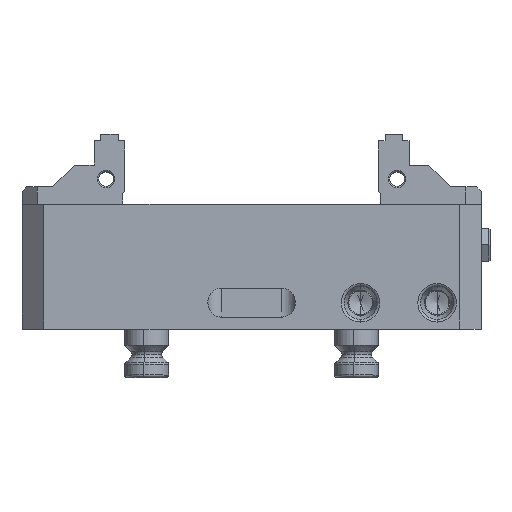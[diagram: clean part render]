
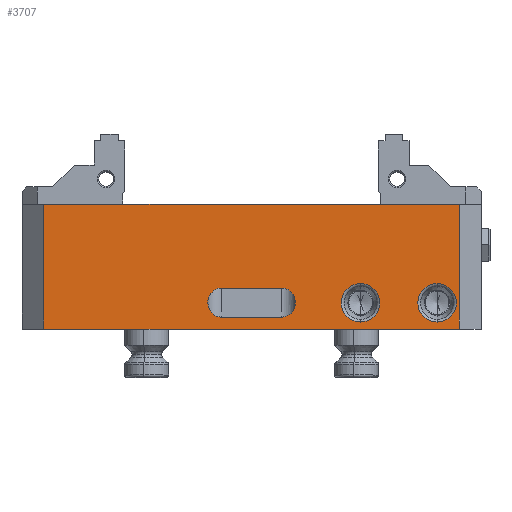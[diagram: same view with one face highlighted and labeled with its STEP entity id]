
A CAD part, top view. The second image highlights one B-rep face of the part: STEP entity #3707.
In plain terms, the highlighted planar face has unit normal (0, 0, 1).
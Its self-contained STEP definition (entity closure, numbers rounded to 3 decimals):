
#15 = CIRCLE ( 'NONE', #7527, 8.805 ) ;
#126 = CARTESIAN_POINT ( 'NONE',  ( 105., 57., 62.5 ) ) ;
#195 = CARTESIAN_POINT ( 'NONE',  ( -13.75, 18.743, 62.5 ) ) ;
#222 = CARTESIAN_POINT ( 'NONE',  ( -26.25, 18.743, 62.5 ) ) ;
#296 = CARTESIAN_POINT ( 'NONE',  ( 105., 0., 62.5 ) ) ;
#380 = CARTESIAN_POINT ( 'NONE',  ( 84.8, 3.195, 62.5 ) ) ;
#487 = EDGE_LOOP ( 'NONE', ( #16011, #5038 ) ) ;
#680 = CARTESIAN_POINT ( 'NONE',  ( 20., 5.441, 62.5 ) ) ;
#954 = EDGE_LOOP ( 'NONE', ( #12599, #6173 ) ) ;
#1278 = EDGE_CURVE ( 'NONE', #11208, #1601, #12634, .T. ) ;
#1333 = ORIENTED_EDGE ( 'NONE', *, *, #6800, .T. ) ;
#1601 = VERTEX_POINT ( 'NONE', #15127 ) ;
#1604 = EDGE_CURVE ( 'NONE', #11815, #7485, #13589, .T. ) ;
#1830 =( BOUNDED_CURVE ( )  B_SPLINE_CURVE ( 3, ( #16059, #222, #11531, #14658 ),
 .UNSPECIFIED., .F., .F. ) 
 B_SPLINE_CURVE_WITH_KNOTS ( ( 4, 4 ),
 ( 3.142, 6.283 ),
 .UNSPECIFIED. ) 
 CURVE ( )  GEOMETRIC_REPRESENTATION_ITEM ( )  RATIONAL_B_SPLINE_CURVE ( ( 1., 0.333, 0.333, 1. ) ) 
 REPRESENTATION_ITEM ( '' )  );
#1899 = AXIS2_PLACEMENT_3D ( 'NONE', #11730, #5552, #11838 ) ;
#1955 = CARTESIAN_POINT ( 'NONE',  ( 84.8, 20.805, 62.5 ) ) ;
#2441 = ORIENTED_EDGE ( 'NONE', *, *, #6796, .F. ) ;
#2546 = LINE ( 'NONE', #680, #13835 ) ;
#2685 = AXIS2_PLACEMENT_3D ( 'NONE', #13885, #5211, #10138 ) ;
#2746 = FACE_BOUND ( 'NONE', #7744, .T. ) ;
#3029 = CARTESIAN_POINT ( 'NONE',  ( 49.8, 12., 62.5 ) ) ;
#3326 = DIRECTION ( 'NONE',  ( 1., 0., 0. ) ) ;
#3337 = DIRECTION ( 'NONE',  ( 1., 0., 0. ) ) ;
#3707 = ADVANCED_FACE ( 'NONE', ( #6666, #5935, #13855, #2746 ), #4541, .F. ) ;
#3807 = DIRECTION ( 'NONE',  ( 0., -1., 0. ) ) ;
#3831 = CARTESIAN_POINT ( 'NONE',  ( 13.75, 5.441, 62.5 ) ) ;
#4223 = ORIENTED_EDGE ( 'NONE', *, *, #11243, .T. ) ;
#4282 = EDGE_CURVE ( 'NONE', #10891, #6450, #12842, .T. ) ;
#4324 = DIRECTION ( 'NONE',  ( 1., 0., 0. ) ) ;
#4526 = ORIENTED_EDGE ( 'NONE', *, *, #1604, .T. ) ;
#4541 = PLANE ( 'NONE',  #11038 ) ;
#4680 = VECTOR ( 'NONE', #3807, 1000. ) ;
#5038 = ORIENTED_EDGE ( 'NONE', *, *, #15654, .F. ) ;
#5211 = DIRECTION ( 'NONE',  ( 0., 0., 1. ) ) ;
#5341 = CARTESIAN_POINT ( 'NONE',  ( 13.75, 18.743, 62.5 ) ) ;
#5412 = EDGE_CURVE ( 'NONE', #8036, #6233, #15, .T. ) ;
#5543 = EDGE_CURVE ( 'NONE', #6233, #8036, #9026, .T. ) ;
#5552 = DIRECTION ( 'NONE',  ( 0., 0., 1. ) ) ;
#5785 = DIRECTION ( 'NONE',  ( -1., 0., 0. ) ) ;
#5799 = CARTESIAN_POINT ( 'NONE',  ( 95., 0., 62.5 ) ) ;
#5847 = ORIENTED_EDGE ( 'NONE', *, *, #6743, .F. ) ;
#5935 = FACE_BOUND ( 'NONE', #487, .T. ) ;
#6067 = CARTESIAN_POINT ( 'NONE',  ( 13.75, 5.441, 62.5 ) ) ;
#6173 = ORIENTED_EDGE ( 'NONE', *, *, #5412, .F. ) ;
#6233 = VERTEX_POINT ( 'NONE', #380 ) ;
#6441 = AXIS2_PLACEMENT_3D ( 'NONE', #3029, #15428, #4324 ) ;
#6450 = VERTEX_POINT ( 'NONE', #16031 ) ;
#6666 = FACE_OUTER_BOUND ( 'NONE', #12880, .T. ) ;
#6743 = EDGE_CURVE ( 'NONE', #10710, #8850, #1830, .T. ) ;
#6796 = EDGE_CURVE ( 'NONE', #13678, #15599, #14639, .T. ) ;
#6800 = EDGE_CURVE ( 'NONE', #10710, #15599, #15102, .T. ) ;
#7109 = CIRCLE ( 'NONE', #6441, 8.805 ) ;
#7473 = ORIENTED_EDGE ( 'NONE', *, *, #4282, .T. ) ;
#7485 = VERTEX_POINT ( 'NONE', #11900 ) ;
#7527 = AXIS2_PLACEMENT_3D ( 'NONE', #10908, #9596, #3337 ) ;
#7744 = EDGE_LOOP ( 'NONE', ( #5847, #1333, #2441, #11401 ) ) ;
#8036 = VERTEX_POINT ( 'NONE', #1955 ) ;
#8262 = DIRECTION ( 'NONE',  ( 0., 0., -1. ) ) ;
#8295 = CARTESIAN_POINT ( 'NONE',  ( 13.75, 18.743, 62.5 ) ) ;
#8523 = VECTOR ( 'NONE', #3326, 1000. ) ;
#8689 = VECTOR ( 'NONE', #5785, 1000. ) ;
#8822 = EDGE_CURVE ( 'NONE', #10891, #7485, #15637, .T. ) ;
#8850 = VERTEX_POINT ( 'NONE', #11666 ) ;
#8997 = CARTESIAN_POINT ( 'NONE',  ( 49.8, 3.195, 62.5 ) ) ;
#9026 = CIRCLE ( 'NONE', #2685, 8.805 ) ;
#9188 = CARTESIAN_POINT ( 'NONE',  ( -95., 57., 62.5 ) ) ;
#9249 = LINE ( 'NONE', #126, #8689 ) ;
#9485 = CARTESIAN_POINT ( 'NONE',  ( 105., 18.743, 62.5 ) ) ;
#9554 = DIRECTION ( 'NONE',  ( 0., -1., 0. ) ) ;
#9596 = DIRECTION ( 'NONE',  ( 0., 0., 1. ) ) ;
#9704 = CARTESIAN_POINT ( 'NONE',  ( 26.25, 18.743, 62.5 ) ) ;
#9876 = EDGE_CURVE ( 'NONE', #13678, #8850, #2546, .T. ) ;
#10138 = DIRECTION ( 'NONE',  ( 1., 0., 0. ) ) ;
#10203 = VECTOR ( 'NONE', #14106, 1000. ) ;
#10678 = DIRECTION ( 'NONE',  ( 0., 1., 0. ) ) ;
#10710 = VERTEX_POINT ( 'NONE', #195 ) ;
#10891 = VERTEX_POINT ( 'NONE', #5799 ) ;
#10908 = CARTESIAN_POINT ( 'NONE',  ( 84.8, 12., 62.5 ) ) ;
#11038 = AXIS2_PLACEMENT_3D ( 'NONE', #13352, #8262, #9554 ) ;
#11208 = VERTEX_POINT ( 'NONE', #8997 ) ;
#11243 = EDGE_CURVE ( 'NONE', #6450, #11815, #9249, .T. ) ;
#11401 = ORIENTED_EDGE ( 'NONE', *, *, #9876, .T. ) ;
#11531 = CARTESIAN_POINT ( 'NONE',  ( -26.25, 5.441, 62.5 ) ) ;
#11666 = CARTESIAN_POINT ( 'NONE',  ( -13.75, 5.441, 62.5 ) ) ;
#11730 = CARTESIAN_POINT ( 'NONE',  ( 49.8, 12., 62.5 ) ) ;
#11815 = VERTEX_POINT ( 'NONE', #9188 ) ;
#11838 = DIRECTION ( 'NONE',  ( 1., 0., 0. ) ) ;
#11900 = CARTESIAN_POINT ( 'NONE',  ( -95., 0., 62.5 ) ) ;
#12599 = ORIENTED_EDGE ( 'NONE', *, *, #5543, .F. ) ;
#12634 = CIRCLE ( 'NONE', #1899, 8.805 ) ;
#12842 = LINE ( 'NONE', #15455, #14588 ) ;
#12880 = EDGE_LOOP ( 'NONE', ( #4223, #4526, #15423, #7473 ) ) ;
#13172 = DIRECTION ( 'NONE',  ( -1., 0., 0. ) ) ;
#13352 = CARTESIAN_POINT ( 'NONE',  ( 105., 0., 62.5 ) ) ;
#13589 = LINE ( 'NONE', #13880, #4680 ) ;
#13678 = VERTEX_POINT ( 'NONE', #3831 ) ;
#13835 = VECTOR ( 'NONE', #13172, 1000. ) ;
#13855 = FACE_BOUND ( 'NONE', #954, .T. ) ;
#13880 = CARTESIAN_POINT ( 'NONE',  ( -95., 0., 62.5 ) ) ;
#13885 = CARTESIAN_POINT ( 'NONE',  ( 84.8, 12., 62.5 ) ) ;
#14106 = DIRECTION ( 'NONE',  ( -1., 0., 0. ) ) ;
#14532 = CARTESIAN_POINT ( 'NONE',  ( 26.25, 5.441, 62.5 ) ) ;
#14588 = VECTOR ( 'NONE', #10678, 1000. ) ;
#14639 =( BOUNDED_CURVE ( )  B_SPLINE_CURVE ( 3, ( #6067, #14532, #9704, #8295 ),
 .UNSPECIFIED., .F., .F. ) 
 B_SPLINE_CURVE_WITH_KNOTS ( ( 4, 4 ),
 ( 0., 3.142 ),
 .UNSPECIFIED. ) 
 CURVE ( )  GEOMETRIC_REPRESENTATION_ITEM ( )  RATIONAL_B_SPLINE_CURVE ( ( 1., 0.333, 0.333, 1. ) ) 
 REPRESENTATION_ITEM ( '' )  );
#14658 = CARTESIAN_POINT ( 'NONE',  ( -13.75, 5.441, 62.5 ) ) ;
#15102 = LINE ( 'NONE', #9485, #8523 ) ;
#15127 = CARTESIAN_POINT ( 'NONE',  ( 49.8, 20.805, 62.5 ) ) ;
#15423 = ORIENTED_EDGE ( 'NONE', *, *, #8822, .F. ) ;
#15428 = DIRECTION ( 'NONE',  ( 0., 0., 1. ) ) ;
#15455 = CARTESIAN_POINT ( 'NONE',  ( 95., 57., 62.5 ) ) ;
#15599 = VERTEX_POINT ( 'NONE', #5341 ) ;
#15637 = LINE ( 'NONE', #296, #10203 ) ;
#15654 = EDGE_CURVE ( 'NONE', #1601, #11208, #7109, .T. ) ;
#16011 = ORIENTED_EDGE ( 'NONE', *, *, #1278, .F. ) ;
#16031 = CARTESIAN_POINT ( 'NONE',  ( 95., 57., 62.5 ) ) ;
#16059 = CARTESIAN_POINT ( 'NONE',  ( -13.75, 18.743, 62.5 ) ) ;
